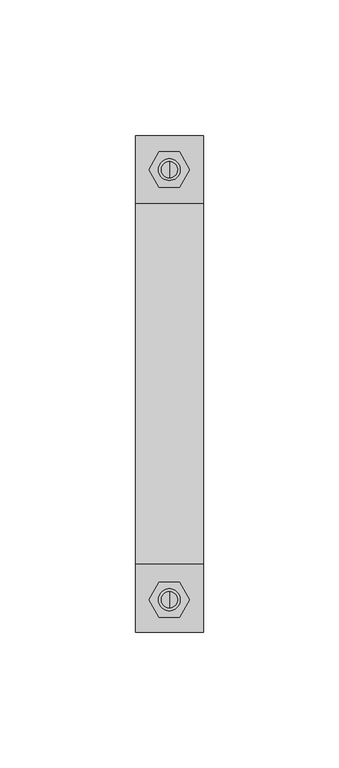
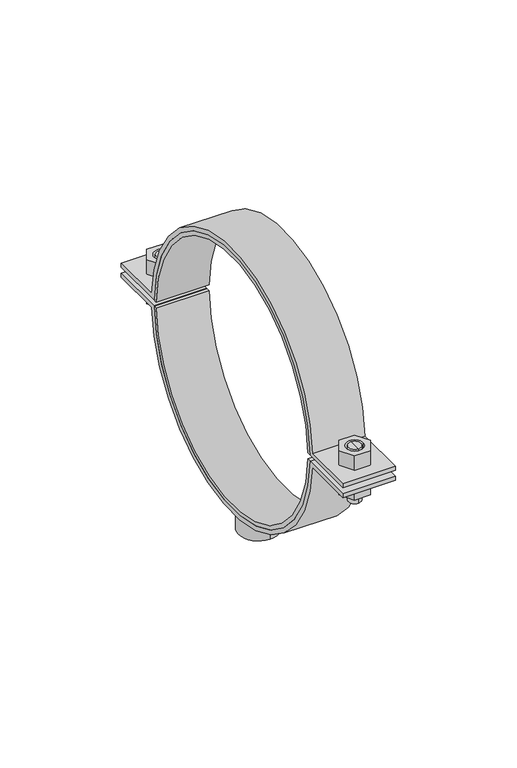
"""IFC4 building model written with IfcOpenShell, lengths in millimetres: valve geometry, Superfix DG2 Clamp Extra : Superfix DG2 Clamp Extra."""

from ifc_helpers import new_model, si_unit, point, frame, frame_2d, origin, origin_2d, place, context, project, spatial, polyline, circle_curve, trimmed, segment, composite_curve, outline, extrude, source, transform, mapped, element, save
from ifc_brep_helpers import plane_surface, cylinder_surface, advanced_brep


def valve_dd110fbf(model_context):
    return source(origin(), model_context, "Body", "SolidModel", [
        advanced_brep(
        [(0.0, 82.0, 333.9), (0.0, 76.0, 333.9), (0.0, 76.0, 348.5), (0.0, 82.0, 348.5), (0.0, 79.0, 333.9)],
        [
            (0, 1, circle_curve(frame((0.0, 79.0, 333.9), z_axis=(0.0, 0.0, 1.0), x_axis=(0.0, 1.0, 0.0)), 3.0)),
            (1, 2),
            (2, 3, circle_curve(frame((0.0, 79.0, 348.5), z_axis=(0.0, 0.0, -1.0), x_axis=(0.0, 1.0, 0.0)), 3.0)),
            (3, 0),
            (1, 0, circle_curve(frame((0.0, 79.0, 333.9), z_axis=(0.0, 0.0, 1.0), x_axis=(0.0, 1.0, 0.0)), 3.0)),
            (3, 2, circle_curve(frame((0.0, 79.0, 348.5), z_axis=(0.0, 0.0, -1.0), x_axis=(0.0, 1.0, 0.0)), 3.0)),
            (0, 4),
            (4, 1),
        ],
        [
            cylinder_surface(frame((0.0, 79.0, 348.2806094), z_axis=(0.0, 0.0, 1.0), x_axis=(0.0, 1.0, 0.0)), 3.0),
            plane_surface(frame((0.0, 79.0, 333.9), z_axis=(0.0, 0.0, -1.0), x_axis=(0.0, 1.0, 0.0))),
            plane_surface(frame((13.75, -91.5, 348.5), z_axis=(0.0, 0.0, 1.0), x_axis=(-1.0, 0.0, 0.0))),
        ],
        [
            (0, [[1, 2, 3, 4]]),
            (0, [[5, -4, 6, -2]]),
            (1, [[-1, 7, 8]]),
            (1, [[-5, -8, -7]]),
            (2, [[-3, -6]]),
        ],
    ),
        advanced_brep(
        [(0.0, 76.0, 361.1), (0.0, 82.0, 361.1), (0.0, 82.0, 351.5), (0.0, 76.0, 351.5), (0.0, 79.0, 361.1)],
        [
            (0, 1, circle_curve(frame((0.0, 79.0, 361.1), z_axis=(0.0, 0.0, -1.0), x_axis=(0.0, 1.0, 0.0)), 3.0)),
            (1, 2),
            (2, 3, circle_curve(frame((0.0, 79.0, 351.5), z_axis=(0.0, 0.0, 1.0), x_axis=(0.0, 1.0, 0.0)), 3.0)),
            (3, 0),
            (1, 0, circle_curve(frame((0.0, 79.0, 361.1), z_axis=(0.0, 0.0, -1.0), x_axis=(0.0, 1.0, 0.0)), 3.0)),
            (3, 2, circle_curve(frame((0.0, 79.0, 351.5), z_axis=(0.0, 0.0, 1.0), x_axis=(0.0, 1.0, 0.0)), 3.0)),
            (0, 4),
            (4, 1),
        ],
        [
            cylinder_surface(frame((0.0, 79.0, 348.2806094), z_axis=(0.0, 0.0, 1.0), x_axis=(0.0, 1.0, 0.0)), 3.0),
            plane_surface(frame((0.0, 79.0, 361.1), z_axis=(0.0, 0.0, 1.0), x_axis=(0.0, 1.0, 0.0))),
            plane_surface(frame((13.75, 91.5, 351.5), z_axis=(0.0, 0.0, -1.0), x_axis=(-1.0, 0.0, 0.0))),
        ],
        [
            (0, [[1, 2, 3, 4]]),
            (0, [[5, -4, 6, -2]]),
            (1, [[-1, 7, 8]]),
            (1, [[-5, -8, -7]]),
            (2, [[-3, -6]]),
        ],
    ),
        advanced_brep(
        [(0.0, -82.5, 361.1), (0.0, -76.5, 361.1), (0.0, -76.5, 351.5), (0.0, -82.5, 351.5), (0.0, -79.5, 361.1)],
        [
            (0, 1, circle_curve(frame((0.0, -79.5, 361.1), z_axis=(0.0, 0.0, -1.0), x_axis=(0.0, -1.0, 0.0)), 3.0)),
            (1, 2),
            (2, 3, circle_curve(frame((0.0, -79.5, 351.5), z_axis=(0.0, 0.0, 1.0), x_axis=(0.0, -1.0, 0.0)), 3.0)),
            (3, 0),
            (1, 0, circle_curve(frame((0.0, -79.5, 361.1), z_axis=(0.0, 0.0, -1.0), x_axis=(0.0, -1.0, 0.0)), 3.0)),
            (3, 2, circle_curve(frame((0.0, -79.5, 351.5), z_axis=(0.0, 0.0, 1.0), x_axis=(0.0, -1.0, 0.0)), 3.0)),
            (0, 4),
            (4, 1),
        ],
        [
            cylinder_surface(frame((0.0, -79.5, 348.2806094), z_axis=(0.0, 0.0, -1.0), x_axis=(0.0, -1.0, 0.0)), 3.0),
            plane_surface(frame((0.0, -79.5, 361.1), z_axis=(0.0, 0.0, 1.0), x_axis=(0.0, -1.0, 0.0))),
            plane_surface(frame((13.75, 91.5, 351.5), z_axis=(0.0, 0.0, -1.0), x_axis=(-1.0, 0.0, 0.0))),
        ],
        [
            (0, [[1, 2, 3, 4]]),
            (0, [[5, -4, 6, -2]]),
            (1, [[-1, 7, 8]]),
            (1, [[-5, -8, -7]]),
            (2, [[-3, -6]]),
        ],
    ),
        advanced_brep(
        [(0.0, -76.5, 333.9), (0.0, -82.5, 333.9), (0.0, -82.5, 348.5), (0.0, -76.5, 348.5), (0.0, -79.5, 333.9)],
        [
            (0, 1, circle_curve(frame((0.0, -79.5, 333.9), z_axis=(0.0, 0.0, 1.0), x_axis=(0.0, -1.0, 0.0)), 3.0)),
            (1, 2),
            (2, 3, circle_curve(frame((0.0, -79.5, 348.5), z_axis=(0.0, 0.0, -1.0), x_axis=(0.0, -1.0, 0.0)), 3.0)),
            (3, 0),
            (1, 0, circle_curve(frame((0.0, -79.5, 333.9), z_axis=(0.0, 0.0, 1.0), x_axis=(0.0, -1.0, 0.0)), 3.0)),
            (3, 2, circle_curve(frame((0.0, -79.5, 348.5), z_axis=(0.0, 0.0, -1.0), x_axis=(0.0, -1.0, 0.0)), 3.0)),
            (0, 4),
            (4, 1),
        ],
        [
            cylinder_surface(frame((0.0, -79.5, 348.2806094), z_axis=(0.0, 0.0, -1.0), x_axis=(0.0, -1.0, 0.0)), 3.0),
            plane_surface(frame((0.0, -79.5, 333.9), z_axis=(0.0, 0.0, -1.0), x_axis=(0.0, -1.0, 0.0))),
            plane_surface(frame((13.75, -91.5, 348.5), z_axis=(0.0, 0.0, 1.0), x_axis=(-1.0, 0.0, 0.0))),
        ],
        [
            (0, [[1, 2, 3, 4]]),
            (0, [[5, -4, 6, -2]]),
            (1, [[-1, 7, 8]]),
            (1, [[-5, -8, -7]]),
            (2, [[-3, -6]]),
        ],
    ),
        extrude(outline(composite_curve([segment(trimmed(circle_curve(frame_2d((0.0, 350.0)), 64.5), [point((-64.4825558, 348.5))], [point((64.4825558, 348.5))], True, "CARTESIAN"), True, "CONTINUOUS"), segment(polyline([(64.4825558, 348.5), (91.5, 348.5), (91.5, 346.5), (66.4078309, 346.5)]), True, "CONTINUOUS"), segment(trimmed(circle_curve(frame_2d((0.0, 350.0)), 66.5), [point((66.4078309, 346.5))], [point((-66.4078309, 346.5))], False, "CARTESIAN"), True, "CONTINUOUS"), segment(polyline([(-66.4078309, 346.5), (-91.5, 346.5), (-91.5, 348.5), (-64.4825558, 348.5)]), True, "CONTINUOUS")], self_intersect=False)), frame((-12.5, 0.0, 0.0), z_axis=(1.0, 0.0, 0.0), x_axis=(0.0, 1.0, 0.0)), (0.0, 0.0, 1.0), 25.0),
        extrude(outline(composite_curve([segment(trimmed(circle_curve(frame_2d((0.0, 350.0)), 64.5), [point((64.4825558, 351.5))], [point((-64.4825558, 351.5))], True, "CARTESIAN"), True, "CONTINUOUS"), segment(polyline([(-64.4825558, 351.5), (-91.5, 351.5), (-91.5, 353.5), (-66.4078309, 353.5)]), True, "CONTINUOUS"), segment(trimmed(circle_curve(frame_2d((0.0, 350.0)), 66.5), [point((-66.4078309, 353.5))], [point((66.4078309, 353.5))], False, "CARTESIAN"), True, "CONTINUOUS"), segment(polyline([(66.4078309, 353.5), (91.5, 353.5), (91.5, 351.5), (64.4825558, 351.5)]), True, "CONTINUOUS")], self_intersect=False)), frame((-12.5, 0.0, 0.0), z_axis=(1.0, 0.0, 0.0), x_axis=(0.0, 1.0, 0.0)), (0.0, 0.0, 1.0), 25.0),
        extrude(outline(polyline([(7.5055535, -79.5), (3.7527767, -86.0), (-3.7527767, -86.0), (-7.5055535, -79.5), (-3.7527767, -73.0), (3.7527767, -73.0), (7.5055535, -79.5)]), holes=[composite_curve([segment(trimmed(circle_curve(frame_2d((0.0, -79.5)), 4.0), [point((4.0, -79.5))], [point((-4.0, -79.5))], True, "CARTESIAN"), True, "CONTINUOUS"), segment(trimmed(circle_curve(frame_2d((0.0, -79.5)), 4.0), [point((-4.0, -79.5))], [point((4.0, -79.5))], True, "CARTESIAN"), True, "CONTINUOUS")], self_intersect=False)]), frame((0.0, 0.0, 353.5), z_axis=(0.0, 0.0, 1.0), x_axis=(1.0, 0.0, 0.0)), (0.0, 0.0, 1.0), 7.6),
        extrude(outline(polyline([(7.5055535, 79.0), (3.7527767, 72.5), (-3.7527767, 72.5), (-7.5055535, 79.0), (-3.7527767, 85.5), (3.7527767, 85.5), (7.5055535, 79.0)]), holes=[composite_curve([segment(trimmed(circle_curve(frame_2d((0.0, 79.0)), 4.0), [point((4.0, 79.0))], [point((-4.0, 79.0))], True, "CARTESIAN"), True, "CONTINUOUS"), segment(trimmed(circle_curve(frame_2d((0.0, 79.0)), 4.0), [point((-4.0, 79.0))], [point((4.0, 79.0))], True, "CARTESIAN"), True, "CONTINUOUS")], self_intersect=False)]), frame((0.0, 0.0, 353.5), z_axis=(0.0, 0.0, 1.0), x_axis=(1.0, 0.0, 0.0)), (0.0, 0.0, 1.0), 7.6),
        extrude(outline(polyline([(7.5055535, -79.5), (3.7527767, -86.0), (-3.7527767, -86.0), (-7.5055535, -79.5), (-3.7527767, -73.0), (3.7527767, -73.0), (7.5055535, -79.5)]), holes=[composite_curve([segment(trimmed(circle_curve(frame_2d((0.0, -79.5)), 4.0), [point((4.0, -79.5))], [point((-4.0, -79.5))], True, "CARTESIAN"), True, "CONTINUOUS"), segment(trimmed(circle_curve(frame_2d((0.0, -79.5)), 4.0), [point((-4.0, -79.5))], [point((4.0, -79.5))], True, "CARTESIAN"), True, "CONTINUOUS")], self_intersect=False)]), frame((0.0, 0.0, 338.9), z_axis=(0.0, 0.0, 1.0), x_axis=(1.0, 0.0, 0.0)), (0.0, 0.0, 1.0), 7.6),
        extrude(outline(polyline([(7.5055535, 79.0), (3.7527767, 72.5), (-3.7527767, 72.5), (-7.5055535, 79.0), (-3.7527767, 85.5), (3.7527767, 85.5), (7.5055535, 79.0)]), holes=[composite_curve([segment(trimmed(circle_curve(frame_2d((0.0, 79.0)), 4.0), [point((4.0, 79.0))], [point((-4.0, 79.0))], True, "CARTESIAN"), True, "CONTINUOUS"), segment(trimmed(circle_curve(frame_2d((0.0, 79.0)), 4.0), [point((-4.0, 79.0))], [point((4.0, 79.0))], True, "CARTESIAN"), True, "CONTINUOUS")], self_intersect=False)]), frame((0.0, 0.0, 338.9), z_axis=(0.0, 0.0, 1.0), x_axis=(1.0, 0.0, 0.0)), (0.0, 0.0, 1.0), 7.6),
        extrude(outline(composite_curve([segment(trimmed(circle_curve(origin_2d(), 9.5), [point((0.0, 9.5))], [point((0.0, -9.5))], False, "CARTESIAN"), True, "CONTINUOUS"), segment(trimmed(circle_curve(origin_2d(), 9.5), [point((0.0, -9.5))], [point((0.0, 9.5))], False, "CARTESIAN"), True, "CONTINUOUS")], self_intersect=False), holes=[composite_curve([segment(trimmed(circle_curve(origin_2d(), 6.0), [point((0.0, 6.0))], [point((0.0, -6.0))], True, "CARTESIAN"), True, "CONTINUOUS"), segment(trimmed(circle_curve(origin_2d(), 6.0), [point((0.0, -6.0))], [point((0.0, 6.0))], True, "CARTESIAN"), True, "CONTINUOUS")], self_intersect=False)]), frame((0.0, 0.0, 271.5), z_axis=(0.0, 0.0, 1.0), x_axis=(1.0, 0.0, 0.0)), (0.0, 0.0, 1.0), 14.0),
        extrude(outline(composite_curve([segment(trimmed(circle_curve(frame_2d((0.0, 350.0)), 62.5), [point((62.4819974, 351.5))], [point((-62.4819974, 351.5))], True, "CARTESIAN"), True, "CONTINUOUS"), segment(polyline([(-62.4819974, 351.5), (-64.4825558, 351.5)]), True, "CONTINUOUS"), segment(trimmed(circle_curve(frame_2d((0.0, 350.0)), 64.5), [point((-64.4825558, 351.5))], [point((64.4825558, 351.5))], False, "CARTESIAN"), True, "CONTINUOUS"), segment(polyline([(64.4825558, 351.5), (62.4819974, 351.5)]), True, "CONTINUOUS")], self_intersect=False)), frame((-12.5, 0.0, 0.0), z_axis=(1.0, 0.0, 0.0), x_axis=(0.0, 1.0, 0.0)), (0.0, 0.0, 1.0), 25.0),
        extrude(outline(composite_curve([segment(polyline([(62.4819974, 348.5), (64.4825558, 348.5)]), True, "CONTINUOUS"), segment(trimmed(circle_curve(frame_2d((0.0, 350.0)), 64.5), [point((64.4825558, 348.5))], [point((-64.4825558, 348.5))], False, "CARTESIAN"), True, "CONTINUOUS"), segment(polyline([(-64.4825558, 348.5), (-62.4819974, 348.5)]), True, "CONTINUOUS"), segment(trimmed(circle_curve(frame_2d((0.0, 350.0)), 62.5), [point((-62.4819974, 348.5))], [point((62.4819974, 348.5))], True, "CARTESIAN"), True, "CONTINUOUS")], self_intersect=False)), frame((-12.5, 0.0, 0.0), z_axis=(1.0, 0.0, 0.0), x_axis=(0.0, 1.0, 0.0)), (0.0, 0.0, 1.0), 25.0),
    ])


if __name__ == "__main__":
    model = new_model("IFC4")
    model_context = context("Model", 3, world=origin())
    ifc_project = project(units=[si_unit("LENGTHUNIT", "METRE", prefix="MILLI")], contexts=[model_context])
    site = spatial("IfcSite", under=ifc_project)
    building = spatial("IfcBuilding", under=site)
    placement = place(None, origin())
    valve_shape = valve_dd110fbf(model_context)
    element("IfcValve", 1, ObjectType="Superfix DG2 Clamp Extra : Superfix DG2 Clamp Extra", at=placement, inside=building, context=model_context, shape_type="MappedRepresentation", body=[
        mapped(valve_shape, transform((0.0, 0.0, 0.0), x_axis=(1.0, 0.0, 0.0), y_axis=(0.0, 1.0, 0.0), z_axis=(0.0, 0.0, 1.0))),
    ])
    save(model, "model.ifc")
